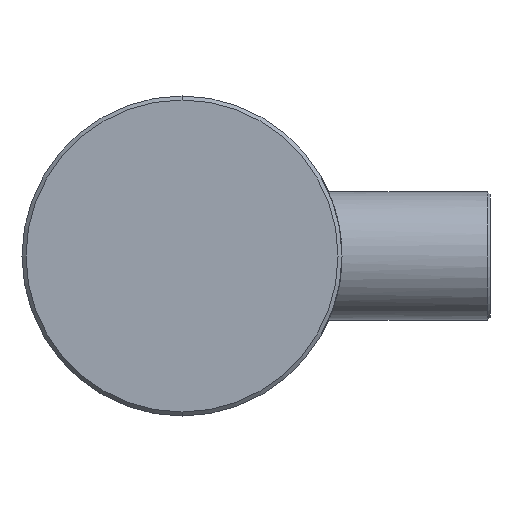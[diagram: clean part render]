
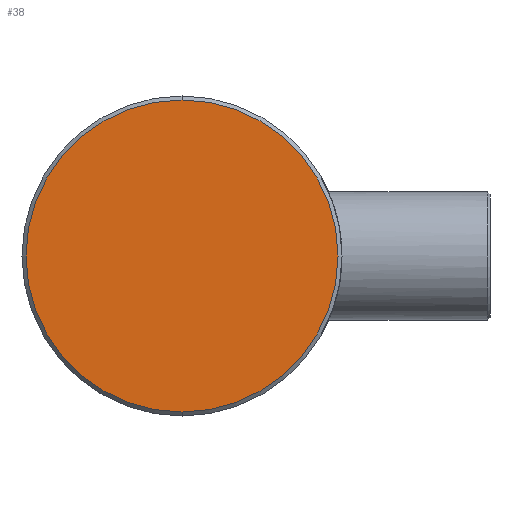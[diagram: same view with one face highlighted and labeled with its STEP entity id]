
A CAD part, left-side view. The second image highlights one B-rep face of the part: STEP entity #38.
In plain terms, the highlighted planar face has unit normal (-1, 0, 0).
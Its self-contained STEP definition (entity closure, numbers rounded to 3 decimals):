
#38 = ADVANCED_FACE ( 'NONE', ( #1308 ), #317, .F. ) ;
#44 = CARTESIAN_POINT ( 'NONE',  ( -155.326, 0., 19.5 ) ) ;
#211 = VERTEX_POINT ( 'NONE', #44 ) ;
#213 = CARTESIAN_POINT ( 'NONE',  ( -155.326, 19.5, 0. ) ) ;
#268 = DIRECTION ( 'NONE',  ( -1., 0., 0. ) ) ;
#317 = PLANE ( 'NONE',  #327 ) ;
#327 = AXIS2_PLACEMENT_3D ( 'NONE', #213, #860, #656 ) ;
#405 = EDGE_LOOP ( 'NONE', ( #837, #1324 ) ) ;
#523 = EDGE_CURVE ( 'NONE', #211, #834, #821, .T. ) ;
#628 = DIRECTION ( 'NONE',  ( -1., 0., 0. ) ) ;
#656 = DIRECTION ( 'NONE',  ( 0., 0., -1. ) ) ;
#662 = CARTESIAN_POINT ( 'NONE',  ( -155.326, 0., -19.5 ) ) ;
#821 = CIRCLE ( 'NONE', #826, 19.5 ) ;
#826 = AXIS2_PLACEMENT_3D ( 'NONE', #1350, #628, #1242 ) ;
#834 = VERTEX_POINT ( 'NONE', #662 ) ;
#837 = ORIENTED_EDGE ( 'NONE', *, *, #1137, .T. ) ;
#857 = AXIS2_PLACEMENT_3D ( 'NONE', #915, #268, #1023 ) ;
#860 = DIRECTION ( 'NONE',  ( 1., 0., 0. ) ) ;
#915 = CARTESIAN_POINT ( 'NONE',  ( -155.326, 0., 0. ) ) ;
#964 = CIRCLE ( 'NONE', #857, 19.5 ) ;
#1023 = DIRECTION ( 'NONE',  ( 0., 0., 1. ) ) ;
#1137 = EDGE_CURVE ( 'NONE', #834, #211, #964, .T. ) ;
#1242 = DIRECTION ( 'NONE',  ( 0., 0., 1. ) ) ;
#1308 = FACE_OUTER_BOUND ( 'NONE', #405, .T. ) ;
#1324 = ORIENTED_EDGE ( 'NONE', *, *, #523, .T. ) ;
#1350 = CARTESIAN_POINT ( 'NONE',  ( -155.326, 0., 0. ) ) ;
